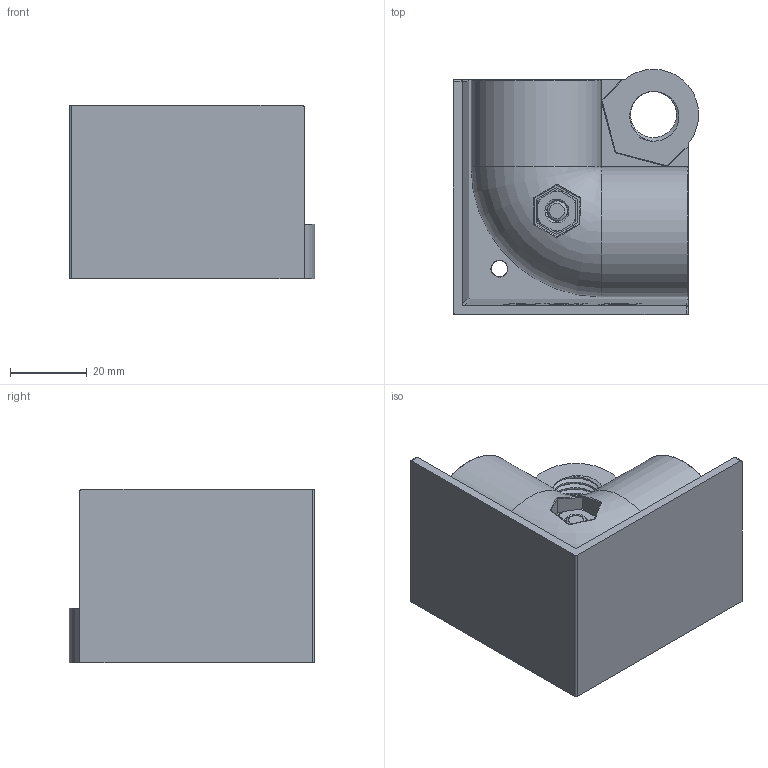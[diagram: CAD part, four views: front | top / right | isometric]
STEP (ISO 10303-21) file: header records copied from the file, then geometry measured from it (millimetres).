
FILE_DESCRIPTION (( 'STEP AP214' ), '1' );
FILE_NAME ('1143.STEP', '2022-08-05T10:43:27', ( 'Home' ), ( '' ), 'SwSTEP 2.0', 'SolidWorks 2020', '' );
FILE_SCHEMA (( 'AUTOMOTIVE_DESIGN' ));
Length unit declared in the file: millimetre
Products named in the file (5): Âèíò DIN912_Œ6å20; 1143-1; Ãàéêà Ì6; 1143-2; 1143
Assembly tree (4 placements, depth 2):
  1143
    1143-1
    1143-2
    Âèíò DIN912_Œ6å20
    Ãàéêà Ì6
Bounding box: 63.75 x 63.75 x 45 mm (x, y, z)
Volume: 72912.6 mm3; surface area: 31118.3 mm2
Topology: 15 solids, 15 shells, 416 faces, 1070 edges, 684 vertices
Faces by surface type: plane 174, cylinder 142, bspline 56, cone 20, torus 18, sphere 6
Entity records: 24586 total; most frequent: CARTESIAN_POINT 13872, ORIENTED_EDGE 2126, DIRECTION 1660, EDGE_CURVE 1063, VERTEX_POINT 684, LINE 574, VECTOR 574, AXIS2_PLACEMENT_3D 543
